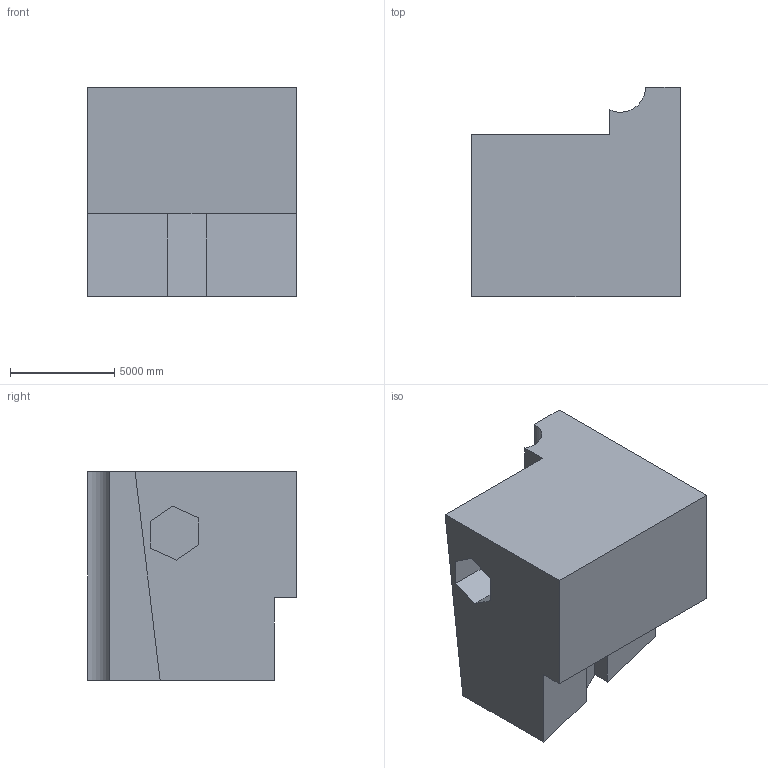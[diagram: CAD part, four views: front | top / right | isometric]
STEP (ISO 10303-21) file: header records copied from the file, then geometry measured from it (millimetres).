
FILE_DESCRIPTION (( 'STEP AP203' ), '1' );
FILE_NAME ('87.STEP', '2022-08-31T11:29:17', ( 'user' ), ( '' ), 'SwSTEP 2.0', 'SolidWorks 2021', '' );
FILE_SCHEMA (( 'CONFIG_CONTROL_DESIGN' ));
Length unit declared in the file: centimetre
Products named in the file (1): 87
Bounding box: 10000 x 10000 x 10000 mm (x, y, z)
Volume: 674315905744.7 mm3; surface area: 596994525.3 mm2
Topology: 1 solids, 1 shells, 23 faces, 60 edges, 40 vertices
Faces by surface type: plane 22, cylinder 1
Entity records: 773 total; most frequent: CARTESIAN_POINT 124, ORIENTED_EDGE 120, DIRECTION 110, EDGE_CURVE 60, VECTOR 58, LINE 58, VERTEX_POINT 40, AXIS2_PLACEMENT_3D 26
